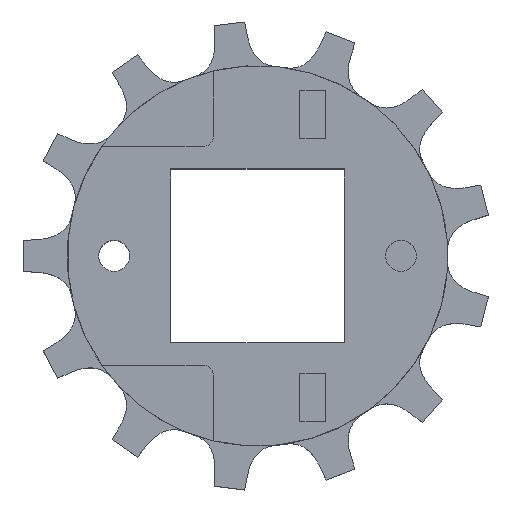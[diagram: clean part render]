
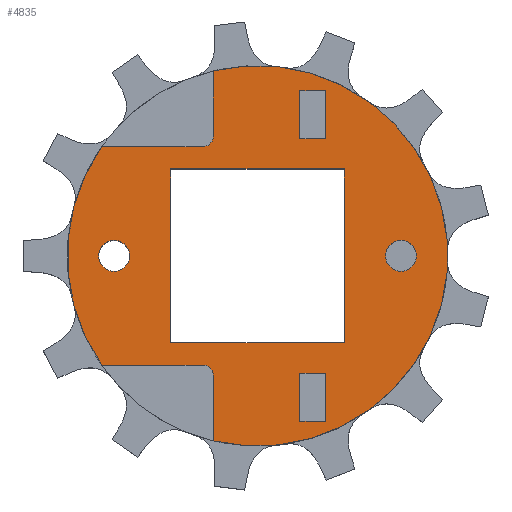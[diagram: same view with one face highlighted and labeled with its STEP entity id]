
A CAD part, top view. The second image highlights one B-rep face of the part: STEP entity #4835.
In plain terms, the highlighted planar face has unit normal (0, 0, 1).
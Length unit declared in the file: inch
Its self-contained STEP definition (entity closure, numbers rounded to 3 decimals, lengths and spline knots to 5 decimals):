
#1531=DIRECTION('',(-1.,0.,0.));
#1532=VECTOR('',#1531,0.91724);
#1533=CARTESIAN_POINT('',(-0.494,0.99,0.74));
#1534=LINE('',#1533,#1532);
#1535=CARTESIAN_POINT('',(-0.494,1.084,0.74));
#1536=DIRECTION('',(0.,0.,-1.));
#1537=DIRECTION('',(1.,0.,0.));
#1538=AXIS2_PLACEMENT_3D('',#1535,#1536,#1537);
#1540=DIRECTION('',(0.,-1.,0.));
#1541=VECTOR('',#1540,0.59282);
#1542=CARTESIAN_POINT('',(-0.4,1.67682,0.74));
#1543=LINE('',#1542,#1541);
#1544=CARTESIAN_POINT('',(0.,0.,0.74));
#1545=DIRECTION('',(0.,0.,1.));
#1546=DIRECTION('',(-0.232,-0.973,0.));
#1547=AXIS2_PLACEMENT_3D('',#1544,#1545,#1546);
#1549=DIRECTION('',(0.,-1.,0.));
#1550=VECTOR('',#1549,0.59282);
#1551=CARTESIAN_POINT('',(-0.4,-1.084,0.74));
#1552=LINE('',#1551,#1550);
#1553=CARTESIAN_POINT('',(-0.494,-1.084,0.74));
#1554=DIRECTION('',(0.,0.,-1.));
#1555=DIRECTION('',(0.,1.,0.));
#1556=AXIS2_PLACEMENT_3D('',#1553,#1554,#1555);
#1558=DIRECTION('',(1.,0.,0.));
#1559=VECTOR('',#1558,0.91724);
#1560=CARTESIAN_POINT('',(-1.41124,-0.99,0.74));
#1561=LINE('',#1560,#1559);
#1562=CARTESIAN_POINT('',(0.,0.,0.74));
#1563=DIRECTION('',(0.,0.,1.));
#1564=DIRECTION('',(-0.819,0.574,0.));
#1565=AXIS2_PLACEMENT_3D('',#1562,#1563,#1564);
#1567=DIRECTION('',(0.,-1.,0.));
#1568=VECTOR('',#1567,0.436);
#1569=CARTESIAN_POINT('',(0.384,1.498,0.74));
#1570=LINE('',#1569,#1568);
#1571=DIRECTION('',(1.,0.,0.));
#1572=VECTOR('',#1571,0.23);
#1573=CARTESIAN_POINT('',(0.384,1.062,0.74));
#1574=LINE('',#1573,#1572);
#1575=DIRECTION('',(0.,1.,0.));
#1576=VECTOR('',#1575,0.436);
#1577=CARTESIAN_POINT('',(0.614,1.062,0.74));
#1578=LINE('',#1577,#1576);
#1579=DIRECTION('',(-1.,0.,0.));
#1580=VECTOR('',#1579,0.23);
#1581=CARTESIAN_POINT('',(0.614,1.498,0.74));
#1582=LINE('',#1581,#1580);
#1583=DIRECTION('',(0.,-1.,0.));
#1584=VECTOR('',#1583,0.436);
#1585=CARTESIAN_POINT('',(0.384,-1.062,0.74));
#1586=LINE('',#1585,#1584);
#1587=DIRECTION('',(1.,0.,0.));
#1588=VECTOR('',#1587,0.23);
#1589=CARTESIAN_POINT('',(0.384,-1.498,0.74));
#1590=LINE('',#1589,#1588);
#1591=DIRECTION('',(0.,1.,0.));
#1592=VECTOR('',#1591,0.436);
#1593=CARTESIAN_POINT('',(0.614,-1.498,0.74));
#1594=LINE('',#1593,#1592);
#1595=DIRECTION('',(-1.,0.,0.));
#1596=VECTOR('',#1595,0.23);
#1597=CARTESIAN_POINT('',(0.614,-1.062,0.74));
#1598=LINE('',#1597,#1596);
#1599=CARTESIAN_POINT('',(-1.3,0.,0.74));
#1600=DIRECTION('',(0.,0.,1.));
#1601=DIRECTION('',(0.,1.,0.));
#1602=AXIS2_PLACEMENT_3D('',#1599,#1600,#1601);
#1604=CARTESIAN_POINT('',(-1.3,0.,0.74));
#1605=DIRECTION('',(0.,0.,1.));
#1606=DIRECTION('',(0.,-1.,0.));
#1607=AXIS2_PLACEMENT_3D('',#1604,#1605,#1606);
#1609=CARTESIAN_POINT('',(1.3,0.,0.74));
#1610=DIRECTION('',(0.,0.,1.));
#1611=DIRECTION('',(0.,-1.,0.));
#1612=AXIS2_PLACEMENT_3D('',#1609,#1610,#1611);
#1614=CARTESIAN_POINT('',(1.3,0.,0.74));
#1615=DIRECTION('',(0.,0.,1.));
#1616=DIRECTION('',(0.,1.,0.));
#1617=AXIS2_PLACEMENT_3D('',#1614,#1615,#1616);
#1619=DIRECTION('',(0.,-1.,0.));
#1620=VECTOR('',#1619,1.575);
#1621=CARTESIAN_POINT('',(-0.7875,0.7875,0.74));
#1622=LINE('',#1621,#1620);
#1623=DIRECTION('',(1.,0.,0.));
#1624=VECTOR('',#1623,1.575);
#1625=CARTESIAN_POINT('',(-0.7875,-0.7875,0.74));
#1626=LINE('',#1625,#1624);
#1627=DIRECTION('',(0.,1.,0.));
#1628=VECTOR('',#1627,1.575);
#1629=CARTESIAN_POINT('',(0.7875,-0.7875,0.74));
#1630=LINE('',#1629,#1628);
#1631=DIRECTION('',(-1.,0.,0.));
#1632=VECTOR('',#1631,1.575);
#1633=CARTESIAN_POINT('',(0.7875,0.7875,0.74));
#1634=LINE('',#1633,#1632);
#2447=CARTESIAN_POINT('',(-0.7875,0.7875,0.74));
#2449=VERTEX_POINT('',#2447);
#2451=CARTESIAN_POINT('',(-0.7875,-0.7875,0.74));
#2453=VERTEX_POINT('',#2451);
#2455=CARTESIAN_POINT('',(0.7875,-0.7875,0.74));
#2457=VERTEX_POINT('',#2455);
#2459=CARTESIAN_POINT('',(0.7875,0.7875,0.74));
#2461=VERTEX_POINT('',#2459);
#2471=CARTESIAN_POINT('',(-0.4,-1.67682,0.74));
#2472=CARTESIAN_POINT('',(-0.4,1.67682,0.74));
#2473=VERTEX_POINT('',#2471);
#2474=VERTEX_POINT('',#2472);
#2475=CARTESIAN_POINT('',(-1.41124,0.99,0.74));
#2476=CARTESIAN_POINT('',(-1.41124,-0.99,0.74));
#2477=VERTEX_POINT('',#2475);
#2478=VERTEX_POINT('',#2476);
#2487=CARTESIAN_POINT('',(-0.4,-1.084,0.74));
#2488=VERTEX_POINT('',#2487);
#2489=CARTESIAN_POINT('',(-0.4,1.084,0.74));
#2490=VERTEX_POINT('',#2489);
#2491=CARTESIAN_POINT('',(-0.494,0.99,0.74));
#2492=VERTEX_POINT('',#2491);
#2493=CARTESIAN_POINT('',(-0.494,-0.99,0.74));
#2494=VERTEX_POINT('',#2493);
#2527=CARTESIAN_POINT('',(0.384,1.498,0.74));
#2528=CARTESIAN_POINT('',(0.384,1.062,0.74));
#2529=VERTEX_POINT('',#2527);
#2530=VERTEX_POINT('',#2528);
#2531=CARTESIAN_POINT('',(0.614,1.062,0.74));
#2532=VERTEX_POINT('',#2531);
#2533=CARTESIAN_POINT('',(0.614,1.498,0.74));
#2534=VERTEX_POINT('',#2533);
#2535=CARTESIAN_POINT('',(0.384,-1.062,0.74));
#2536=CARTESIAN_POINT('',(0.384,-1.498,0.74));
#2537=VERTEX_POINT('',#2535);
#2538=VERTEX_POINT('',#2536);
#2539=CARTESIAN_POINT('',(0.614,-1.498,0.74));
#2540=VERTEX_POINT('',#2539);
#2541=CARTESIAN_POINT('',(0.614,-1.062,0.74));
#2542=VERTEX_POINT('',#2541);
#2607=CARTESIAN_POINT('',(-1.3,0.1405,0.74));
#2608=CARTESIAN_POINT('',(-1.3,-0.1405,0.74));
#2609=VERTEX_POINT('',#2607);
#2610=VERTEX_POINT('',#2608);
#2619=CARTESIAN_POINT('',(1.3,-0.1405,0.74));
#2620=CARTESIAN_POINT('',(1.3,0.1405,0.74));
#2621=VERTEX_POINT('',#2619);
#2622=VERTEX_POINT('',#2620);
#4775=CARTESIAN_POINT('',(0.,0.,0.74));
#4776=DIRECTION('',(0.,0.,1.));
#4777=DIRECTION('',(1.,0.,0.));
#4778=AXIS2_PLACEMENT_3D('',#4775,#4776,#4777);
#4779=PLANE('',#4778);
#4780=ORIENTED_EDGE('',*,*,#4689,.F.);
#4781=ORIENTED_EDGE('',*,*,#4718,.F.);
#4782=ORIENTED_EDGE('',*,*,#4745,.F.);
#4783=ORIENTED_EDGE('',*,*,#2680,.F.);
#4785=ORIENTED_EDGE('',*,*,#4784,.F.);
#4787=ORIENTED_EDGE('',*,*,#4786,.F.);
#4789=ORIENTED_EDGE('',*,*,#4788,.F.);
#4790=ORIENTED_EDGE('',*,*,#2672,.F.);
#4791=EDGE_LOOP('',(#4780,#4781,#4782,#4783,#4785,#4787,#4789,#4790));
#4792=FACE_OUTER_BOUND('',#4791,.F.);
#4794=ORIENTED_EDGE('',*,*,#4793,.T.);
#4796=ORIENTED_EDGE('',*,*,#4795,.T.);
#4798=ORIENTED_EDGE('',*,*,#4797,.T.);
#4800=ORIENTED_EDGE('',*,*,#4799,.T.);
#4801=EDGE_LOOP('',(#4794,#4796,#4798,#4800));
#4802=FACE_BOUND('',#4801,.F.);
#4804=ORIENTED_EDGE('',*,*,#4803,.T.);
#4806=ORIENTED_EDGE('',*,*,#4805,.T.);
#4808=ORIENTED_EDGE('',*,*,#4807,.T.);
#4810=ORIENTED_EDGE('',*,*,#4809,.T.);
#4811=EDGE_LOOP('',(#4804,#4806,#4808,#4810));
#4812=FACE_BOUND('',#4811,.F.);
#4814=ORIENTED_EDGE('',*,*,#4813,.T.);
#4816=ORIENTED_EDGE('',*,*,#4815,.T.);
#4817=EDGE_LOOP('',(#4814,#4816));
#4818=FACE_BOUND('',#4817,.F.);
#4820=ORIENTED_EDGE('',*,*,#4819,.T.);
#4822=ORIENTED_EDGE('',*,*,#4821,.T.);
#4823=EDGE_LOOP('',(#4820,#4822));
#4824=FACE_BOUND('',#4823,.F.);
#4826=ORIENTED_EDGE('',*,*,#4825,.T.);
#4828=ORIENTED_EDGE('',*,*,#4827,.T.);
#4830=ORIENTED_EDGE('',*,*,#4829,.T.);
#4832=ORIENTED_EDGE('',*,*,#4831,.T.);
#4833=EDGE_LOOP('',(#4826,#4828,#4830,#4832));
#4834=FACE_BOUND('',#4833,.F.);
#4835=ADVANCED_FACE('',(#4792,#4802,#4812,#4818,#4824,#4834),#4779,.T.);
#1539=CIRCLE('',#1538,0.094);
#1548=CIRCLE('',#1547,1.72387);
#1557=CIRCLE('',#1556,0.094);
#1566=CIRCLE('',#1565,1.72387);
#1603=CIRCLE('',#1602,0.1405);
#1608=CIRCLE('',#1607,0.1405);
#1613=CIRCLE('',#1612,0.1405);
#1618=CIRCLE('',#1617,0.1405);
#2672=EDGE_CURVE('',#2477,#2478,#1566,.T.);
#2680=EDGE_CURVE('',#2473,#2474,#1548,.T.);
#4689=EDGE_CURVE('',#2492,#2477,#1534,.T.);
#4718=EDGE_CURVE('',#2490,#2492,#1539,.T.);
#4745=EDGE_CURVE('',#2474,#2490,#1543,.T.);
#4784=EDGE_CURVE('',#2488,#2473,#1552,.T.);
#4786=EDGE_CURVE('',#2494,#2488,#1557,.T.);
#4788=EDGE_CURVE('',#2478,#2494,#1561,.T.);
#4793=EDGE_CURVE('',#2529,#2530,#1570,.T.);
#4795=EDGE_CURVE('',#2530,#2532,#1574,.T.);
#4797=EDGE_CURVE('',#2532,#2534,#1578,.T.);
#4799=EDGE_CURVE('',#2534,#2529,#1582,.T.);
#4803=EDGE_CURVE('',#2537,#2538,#1586,.T.);
#4805=EDGE_CURVE('',#2538,#2540,#1590,.T.);
#4807=EDGE_CURVE('',#2540,#2542,#1594,.T.);
#4809=EDGE_CURVE('',#2542,#2537,#1598,.T.);
#4813=EDGE_CURVE('',#2609,#2610,#1603,.T.);
#4815=EDGE_CURVE('',#2610,#2609,#1608,.T.);
#4819=EDGE_CURVE('',#2621,#2622,#1613,.T.);
#4821=EDGE_CURVE('',#2622,#2621,#1618,.T.);
#4825=EDGE_CURVE('',#2449,#2453,#1622,.T.);
#4827=EDGE_CURVE('',#2453,#2457,#1626,.T.);
#4829=EDGE_CURVE('',#2457,#2461,#1630,.T.);
#4831=EDGE_CURVE('',#2461,#2449,#1634,.T.);
